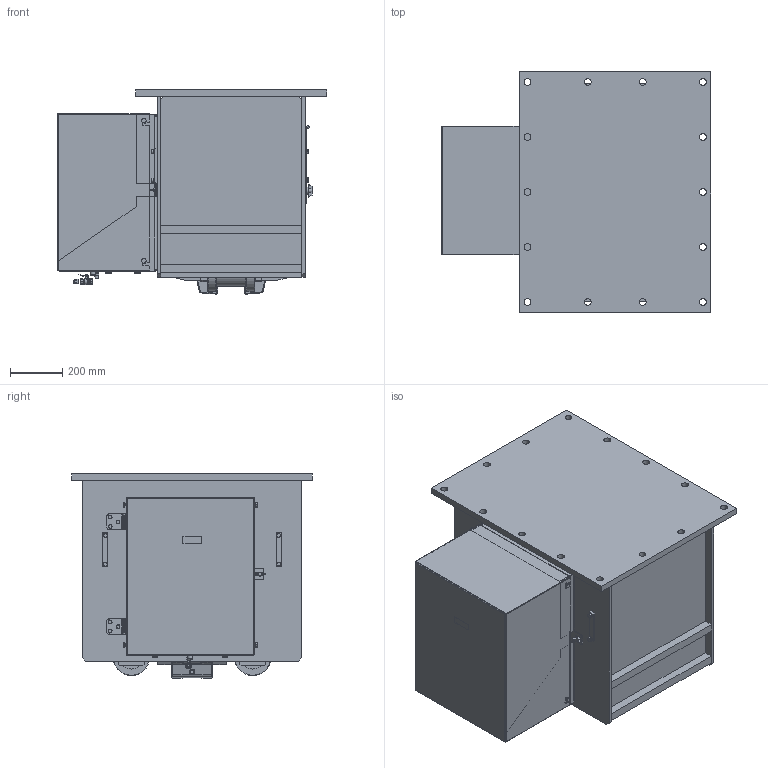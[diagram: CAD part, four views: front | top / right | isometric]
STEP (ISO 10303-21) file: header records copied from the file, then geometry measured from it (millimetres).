
FILE_DESCRIPTION(/* description */ (''),/* implementation_level */ '2;1');
FILE_NAME(/* name */ 'C:\Vault_Workspace\HILLMAR\HILLMAR PRODUCTION\02 STORM BRAKES\0100-2\01002082 CXHV-LH-150-250-LE\SM3D-CXHV-LH-150-250\47504.stp',/* time_stamp */ '2016-10-24T10:57:46+02:00',/* author */ ('vlakrc01'),/* organization */ (''),/* preprocessor_version */ 'ST-DEVELOPER v16.1',/* originating_system */ 'Autodesk Inventor 2016',/* authorisation */ '');
FILE_SCHEMA (('AUTOMOTIVE_DESIGN { 1 0 10303 214 3 1 1 }'));
Products named in the file (1): 47504
Bounding box: 1029.5 x 920 x 780.06 mm (x, y, z)
Volume: 84075066.3 mm3; surface area: 11203575.3 mm2
Topology: 7 solids, 9 shells, 3528 faces, 9089 edges, 5673 vertices
Faces by surface type: plane 1753, cylinder 797, bspline 500, cone 294, torus 122, sphere 62
Full cylindrical faces by diameter (mm): 3 x3, 5.058 x1, 5.5 x2, 6.6 x2, 7.323 x12, 8 x6, 8.767 x1, 9.188 x8, 9.246 x1, 9.8 x2, 10 x12, 10.109 x2, 10.557 x1, 11.053 x2, 11.113 x1, 11.4 x12, 12 x10, 13 x2, 15.4 x8, 16 x4, 17.2 x4, 18 x8, 19.063 x1, 20 x1, 21.032 x4, 22.4 x2, 23.828 x1, 24 x2, 25 x4, 25.082 x1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
Entity records: 121862 total; most frequent: CARTESIAN_POINT 37460, ORIENTED_EDGE 17368, DIRECTION 15593, EDGE_CURVE 8683, VERTEX_POINT 5571, AXIS2_PLACEMENT_3D 5309, LINE 4975, VECTOR 4975
